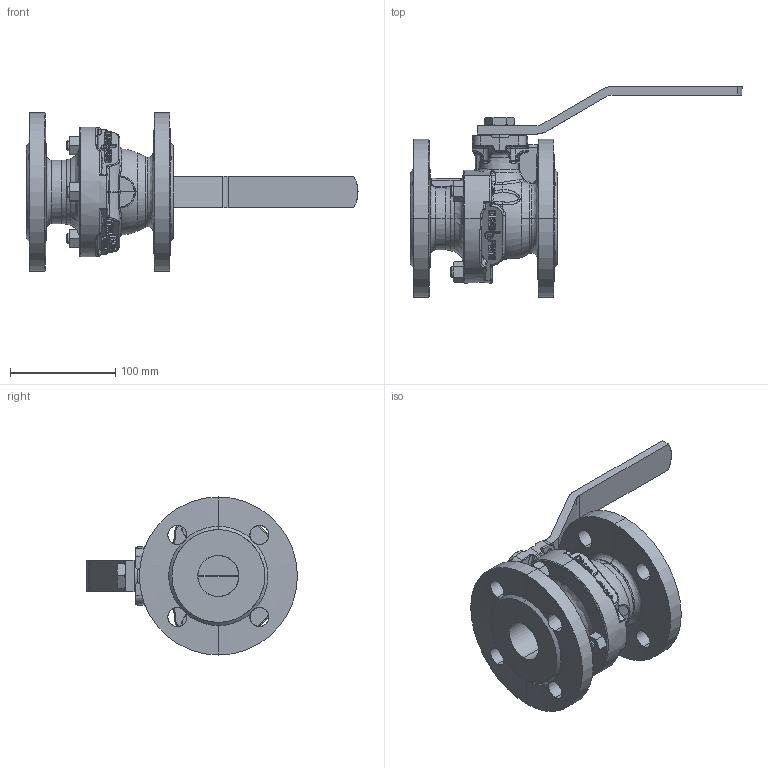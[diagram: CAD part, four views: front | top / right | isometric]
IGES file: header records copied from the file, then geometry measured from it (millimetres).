
Start section: SolidWorks IGES file using analytic representation for surfaces
Global section: file name: C:\Documents and Settings\Luca.Saino\Desktop\Nuova cartella\B2.100I040L16CN.IGS; native system: SolidWorks 2008; preprocessor: SolidWorks 2008; author: Luca.Saino; date: 080617.083258; units: millimetre
Bounding box: 315 x 200.03 x 150 mm (x, y, z)
Surface area: 176144.2 mm2 (no closed solid volume)
Topology: 0 solids, 0 shells, 1163 faces, 14754 edges, 14743 vertices
Faces by surface type: bspline 791, revolution 372
